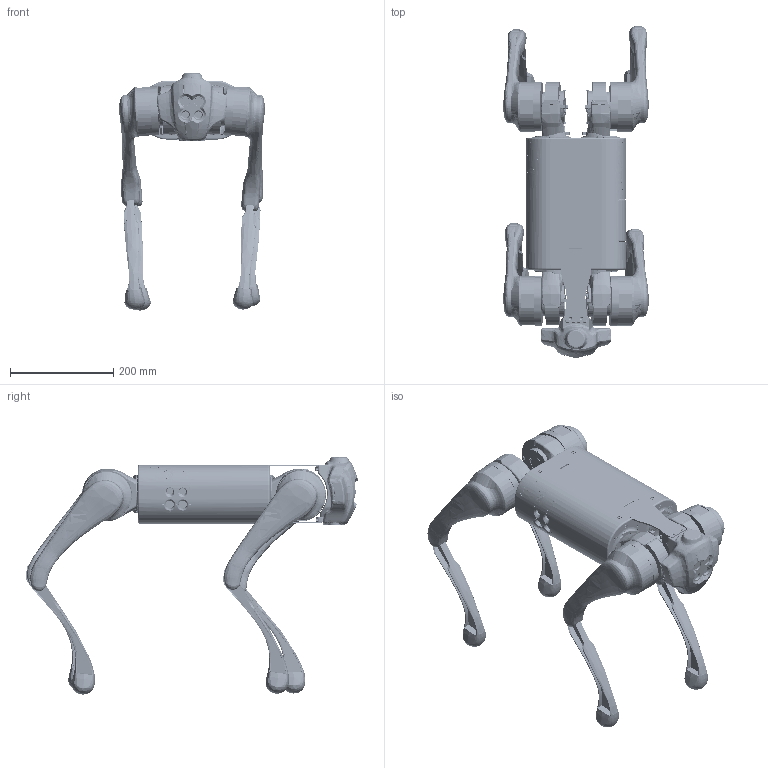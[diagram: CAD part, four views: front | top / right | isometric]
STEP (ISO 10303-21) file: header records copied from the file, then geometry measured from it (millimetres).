
FILE_DESCRIPTION (( 'STEP AP214' ), '1' );
FILE_NAME ('GO1simplify-0812.STEP', '2021-08-12T10:47:39', ( 'o' ), ( '' ), 'SwSTEP 2.0', 'SolidWorks 2019', '' );
FILE_SCHEMA (( 'AUTOMOTIVE_DESIGN' ));
Length unit declared in the file: millimetre
Products named in the file (23): GO1simplify-0812; 蚾饜极14^儂旯潠趙-0812; 党蜊芞ㄗ3遴ㄘ-1103; 蚾饜极12^儂旯潠趙-0812; ________.STEP; 4200; A2-儂旯湮虯蟀諉璃_defeature; Go1______________________.STEP; 儂旯潠趙-0812.STEP; UNTR-AII-05-14_1 大小腿电机连接件FL_defeature; Go1________________.STEP; 蚾饜极13^儂旯潠趙-0812; Go1____-________________.STEP; 俋褲; Go1____-__________20210702.STEP; Go1____-______________.STEP; Go1____-__________20210702-0.STEP; 俋褲衵
Assembly tree (42 placements, depth 4):
  GO1simplify-0812
    儂旯潠趙-0812.STEP
      Go1________________.STEP
        Go1____-______________.STEP  x2
        Go1____-________________.STEP  x2
        ________.STEP
      Go1____-__________20210702.STEP
      Go1____-__________20210702-0.STEP
      Go1______________________.STEP
    蚾饜极14^儂旯潠趙-0812
      俋褲
      4200
    蚾饜极12^儂旯潠趙-0812
      党蜊芞ㄗ3遴ㄘ-1103  x2
      UNTR-AII-05-14_1 大小腿电机连接件FL_defeature
      A2-儂旯湮虯蟀諉璃_defeature
    蚾饜极13^儂旯潠趙-0812
      4200
      俋褲衵
    蚾饜极12^儂旯潠趙-0812
      党蜊芞ㄗ3遴ㄘ-1103  x2
      UNTR-AII-05-14_1 大小腿电机连接件FL_defeature
      A2-儂旯湮虯蟀諉璃_defeature
    蚾饜极12^儂旯潠趙-0812
      党蜊芞ㄗ3遴ㄘ-1103  x2
      UNTR-AII-05-14_1 大小腿电机连接件FL_defeature
      A2-儂旯湮虯蟀諉璃_defeature
    蚾饜极12^儂旯潠趙-0812
      党蜊芞ㄗ3遴ㄘ-1103  x2
      UNTR-AII-05-14_1 大小腿电机连接件FL_defeature
      A2-儂旯湮虯蟀諉璃_defeature
    蚾饜极13^儂旯潠趙-0812
      4200
      俋褲衵
    蚾饜极14^儂旯潠趙-0812
      俋褲
      4200
Bounding box: 282.52 x 644.4 x 460.24 mm (x, y, z)
Volume: 8511089.4 mm3; surface area: 1244424.2 mm2
Topology: 33 solids, 83 shells, 11398 faces, 30011 edges, 18646 vertices
Faces by surface type: cone 2564, bspline 2549, cylinder 2447, plane 2282, torus 1512, sphere 44
Entity records: 413913 total; most frequent: CARTESIAN_POINT 291442, ORIENTED_EDGE 27382, DIRECTION 20157, EDGE_CURVE 13704, VERTEX_POINT 8601, AXIS2_PLACEMENT_3D 8160, EDGE_LOOP 5391, B_SPLINE_CURVE_WITH_KNOTS 5319
